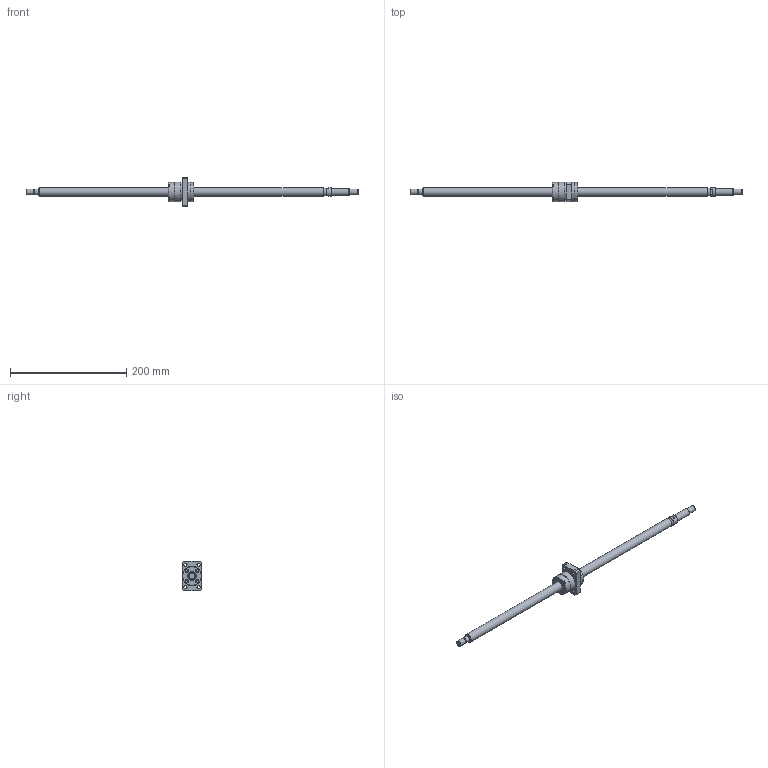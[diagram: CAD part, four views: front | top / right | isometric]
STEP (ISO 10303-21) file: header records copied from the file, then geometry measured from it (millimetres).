
FILE_DESCRIPTION(/* description */ ('STEP AP203'),/* implementation_level */ '2;1');
FILE_NAME(/* name */ 'BNK1510-5.6G0+571LC5Y(266.50)',/* time_stamp */ '2024-07-09T09:23:00+02:00',/* author */ ('License CC BY-ND 4.0'),/* organization */ ('CADENAS'),/* preprocessor_version */ 'ST-DEVELOPER v19.3',/* originating_system */ 'PARTsolutions',/* authorisation */ ' ');
FILE_SCHEMA (('CONFIG_CONTROL_DESIGN','AP242_MANAGED_MODEL_BASED_3D_ENGINEERING_MIM_LF { 1 0 10303 442 3 1 4 }'));
Length unit declared in the file: millimetre
Products named in the file (3): BNK1510-5.6G0+571LC5Y(266.50); BNK 1510-5.6G0+571LC5Y Shaft; BNK 1510-5.6G0+571LC5Y0 Nut
Assembly tree (2 placements, depth 2):
  BNK1510-5.6G0+571LC5Y(266.50)
    BNK 1510-5.6G0+571LC5Y Shaft
    BNK 1510-5.6G0+571LC5Y0 Nut
Bounding box: 571 x 34 x 50 mm (x, y, z)
Volume: 131506.7 mm3; surface area: 38196.4 mm2
Topology: 2 solids, 2 shells, 137 faces, 313 edges, 202 vertices
Faces by surface type: plane 76, cylinder 35, cone 20, torus 6
Full cylindrical faces by diameter (mm): 5.188 x1, 5.5 x8, 9.5 x4, 9.6 x1, 10 x3, 12 x1, 13 x1, 15 x3, 30.6 x1, 33 x2, 34 x2
Entity records: 3729 total; most frequent: CARTESIAN_POINT 677, DIRECTION 632, ORIENTED_EDGE 534, EDGE_CURVE 267, AXIS2_PLACEMENT_3D 249, FACE_BOUND 211, EDGE_LOOP 210, VERTEX_POINT 198
